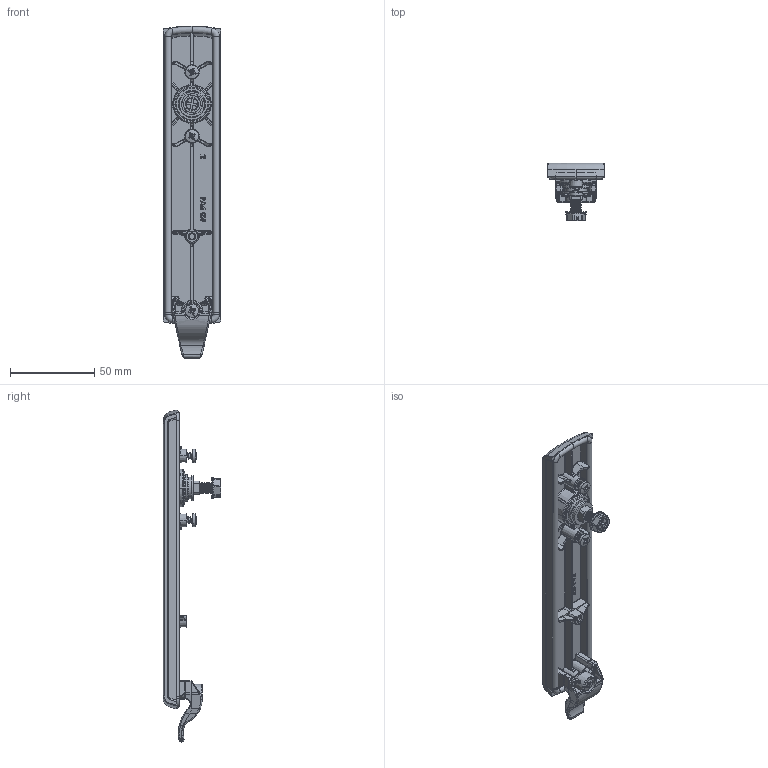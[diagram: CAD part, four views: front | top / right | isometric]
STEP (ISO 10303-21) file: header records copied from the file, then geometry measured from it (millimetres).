
FILE_DESCRIPTION (( 'STEP AP214' ), '1' );
FILE_NAME ('1B.RW425.N.STEP', '2022-02-04T07:39:37', ( '' ), ( '' ), 'SwSTEP 2.0', 'SolidWorks 2021', '' );
FILE_SCHEMA (( 'AUTOMOTIVE_DESIGN' ));
Length unit declared in the file: millimetre
Products named in the file (9): P.014252_00-01; P.014951_00-00; 1B.RW425.N; 2.PT.001_A; DIN 3771_16x2; DIN 7981_F.4.1x12; DIN 7981_F.4.1x16; S6PZ_M6x12 S6Pz; P.014706_00-00
Assembly tree (9 placements, depth 2):
  1B.RW425.N
    P.014252_00-01
    2.PT.001_A
    S6PZ_M6x12 S6Pz
    DIN 7981_F.4.1x12  x2
    DIN 3771_16x2
    P.014951_00-00
    P.014706_00-00
    DIN 7981_F.4.1x16
Bounding box: 34.28 x 34 x 196.6 mm (x, y, z)
Volume: 38160.7 mm3; surface area: 36422.5 mm2
Topology: 10 solids, 10 shells, 2063 faces, 4941 edges, 2931 vertices
Faces by surface type: plane 562, bspline 463, cylinder 453, torus 223, cone 201, sphere 161
Entity records: 79529 total; most frequent: CARTESIAN_POINT 36325, ORIENTED_EDGE 9566, DIRECTION 8129, EDGE_CURVE 4783, AXIS2_PLACEMENT_3D 3223, VERTEX_POINT 2835, EDGE_LOOP 2068, FACE_OUTER_BOUND 2012
